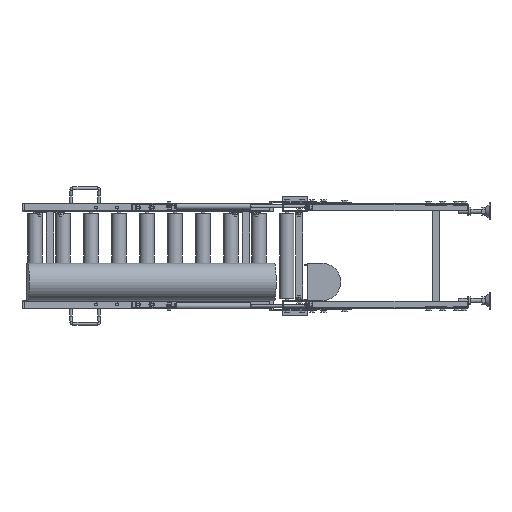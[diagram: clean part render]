
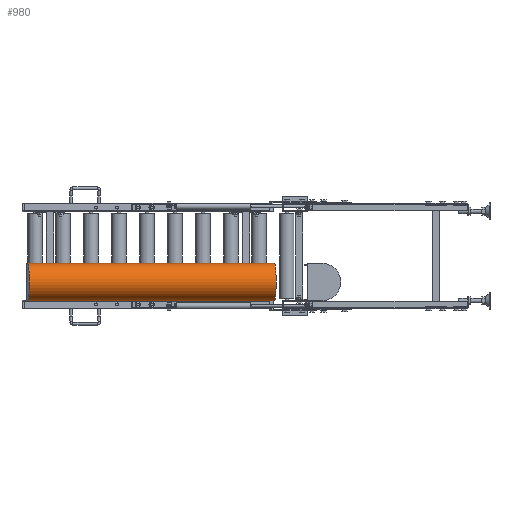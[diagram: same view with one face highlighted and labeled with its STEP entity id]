
A CAD part, left-side view. The second image highlights one B-rep face of the part: STEP entity #980.
In plain terms, the highlighted cylindrical face has radius 66.89 mm (diameter 133.78 mm), a partial arc.
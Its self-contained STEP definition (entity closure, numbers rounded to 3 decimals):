
#980=ADVANCED_FACE('',(#5220),#5219,.T.);
#5219=CYLINDRICAL_SURFACE('',#30377,66.89);
#5220=FACE_OUTER_BOUND('',#30378,.T.);
#30374=CARTESIAN_POINT('',(-63.444,-158.438,-92.61));
#30375=DIRECTION('',(0.087,-0.996,0.));
#30376=DIRECTION('',(0.,0.,-1.));
#30377=AXIS2_PLACEMENT_3D('',#30374,#30375,#30376);
#30378=EDGE_LOOP('',(#44333,#44334,#44335,#44336));
#44333=ORIENTED_EDGE('',*,*,#56732,.F.);
#44334=ORIENTED_EDGE('',*,*,#56754,.T.);
#44335=ORIENTED_EDGE('',*,*,#56752,.T.);
#44336=ORIENTED_EDGE('',*,*,#56728,.F.);
#56728=EDGE_CURVE('',#66679,#66686,#66687,.T.);
#56732=EDGE_CURVE('',#66706,#66679,#66713,.T.);
#56752=EDGE_CURVE('',#66851,#66686,#66852,.T.);
#56754=EDGE_CURVE('',#66706,#66851,#66864,.T.);
#66679=VERTEX_POINT('',#107952);
#66686=VERTEX_POINT('',#107956);
#66687=CIRCLE('',#107960,66.89);
#66706=VERTEX_POINT('',#107968);
#66713=LINE('',#107972,#107973);
#66851=VERTEX_POINT('',#108050);
#66852=LINE('',#108051,#108052);
#66864=CIRCLE('',#108060,66.89);
#107952=CARTESIAN_POINT('',(-155.735,897.187,-159.5));
#107956=CARTESIAN_POINT('',(-155.735,897.187,-25.72));
#107957=CARTESIAN_POINT('',(-155.735,897.187,-92.61));
#107958=DIRECTION('',(-0.087,0.996,0.));
#107959=DIRECTION('',(0.,0.,1.));
#107960=AXIS2_PLACEMENT_3D('',#107957,#107958,#107959);
#107968=CARTESIAN_POINT('',(-78.917,18.539,-159.5));
#107972=CARTESIAN_POINT('',(-78.917,18.539,-159.5));
#107973=VECTOR('',#107974,882.);
#107974=DIRECTION('',(-0.087,0.996,0.));
#108050=CARTESIAN_POINT('',(-78.917,18.539,-25.72));
#108051=CARTESIAN_POINT('',(-78.917,18.539,-25.72));
#108052=VECTOR('',#108053,882.);
#108053=DIRECTION('',(-0.087,0.996,0.));
#108057=CARTESIAN_POINT('',(-78.917,18.539,-92.61));
#108058=DIRECTION('',(-0.087,0.996,0.));
#108059=DIRECTION('',(0.,0.,1.));
#108060=AXIS2_PLACEMENT_3D('',#108057,#108058,#108059);
